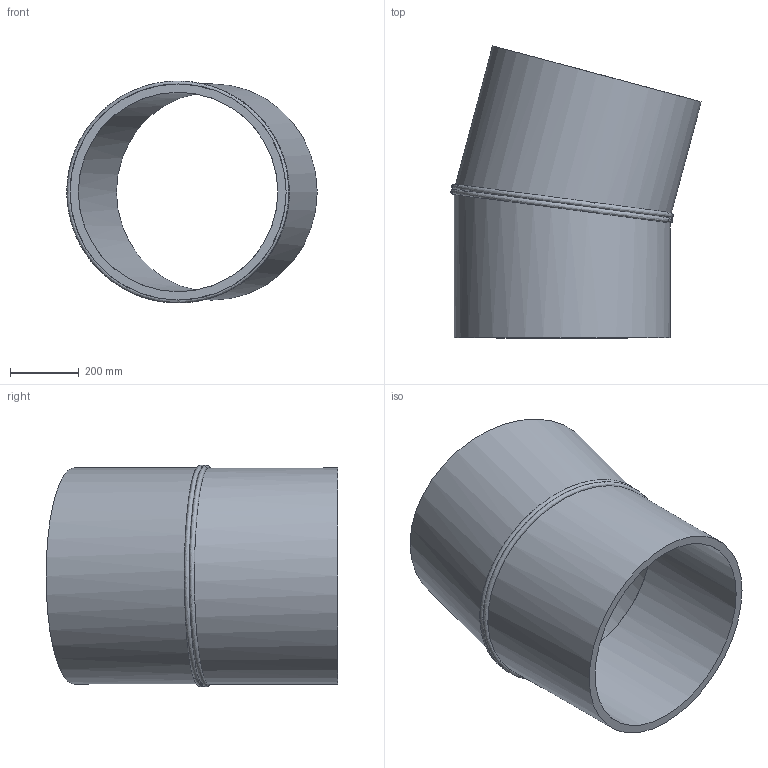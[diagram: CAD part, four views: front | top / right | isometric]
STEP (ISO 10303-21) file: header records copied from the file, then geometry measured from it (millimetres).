
FILE_DESCRIPTION(/* description */ ('Unknown'),/* implementation_level */ '2;1');
FILE_NAME(/* name */ 'Curva 15° a settore DE630 SDR26',/* time_stamp */ '2022-07-25T11:08:17+02:00',/* author */ ('Unknown'),/* organization */ ('Unknown'),/* preprocessor_version */ 'ST-DEVELOPER v18.102',/* originating_system */ 'Solid Edge',/* authorisation */ 'Unknown');
FILE_SCHEMA (('AUTOMOTIVE_DESIGN {1 0 10303 214 3 1 1}'));
Length unit declared in the file: millimetre
Products named in the file (2): Curva 15° a settore DE630 SDR26; Tubo x Gomito 15° DE630 SDR26
Assembly tree (2 placements, depth 2):
  Curva 15° a settore DE630 SDR26
    Tubo x Gomito 15° DE630 SDR26  x2
Bounding box: 730.01 x 851.13 x 646.93 mm (x, y, z)
Volume: 36328649.4 mm3; surface area: 3209209.6 mm2
Topology: 2 solids, 2 shells, 10 faces, 20 edges, 14 vertices
Faces by surface type: cylinder 4, plane 4, bspline 2
Full cylindrical faces by diameter (mm): 581.8 x2, 630 x2
Entity records: 1293 total; most frequent: CARTESIAN_POINT 1156, DIRECTION 20, ORIENTED_EDGE 10, EDGE_LOOP 10, FACE_BOUND 10, AXIS2_PLACEMENT_3D 10, EDGE_CURVE 5, VERTEX_POINT 5
